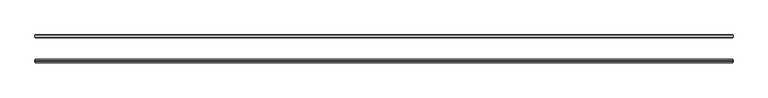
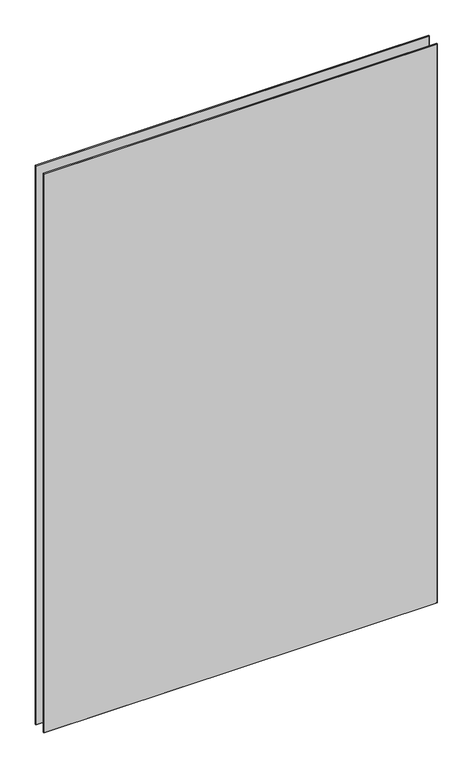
"""IFC4 building model written with IfcOpenShell, lengths in millimetres: plate geometry, 3-AMG-2-Панель двойной витраж 8, 10 : Смещение 32 Толщина 8mm."""

from ifc_helpers import new_model, si_unit, origin, place, context, project, spatial, faceted_brep, source, transform, mapped, element, save


def plate_8bf4778b(model_context):
    return source(origin(), model_context, "Body", "Brep", [
        faceted_brep([(912.0979348, -34.4961653, 2722.8), (912.0979348, -29.5038347, 2722.8), (-907.0979348, -29.5038347, 2722.8), (-907.0979348, -34.4961653, 2722.8), (912.0979348, -29.5038347, -7.0), (912.0979348, -34.4961653, -7.0), (-907.0979348, -34.4961653, -7.0), (-907.0979348, -29.5038347, -7.0), (-905.5941001, -28.0, 2721.2961653), (910.5941001, -28.0, 2721.2961653), (910.5941001, -28.0, -5.5039422), (-905.5941001, -28.0, -5.5039422), (910.5941001, -36.0, 2721.2961653), (-905.5941001, -36.0, 2721.2961653), (-905.5941001, -36.0, -5.4961653), (910.5941001, -36.0, -5.4961653)], [[[0, 1, 2, 3]], [[4, 5, 6, 7]], [[8, 9, 10, 11]], [[3, 2, 7, 6]], [[12, 13, 14, 15]], [[1, 0, 5, 4]], [[1, 4, 10, 9]], [[5, 0, 12, 15]], [[0, 3, 13, 12]], [[2, 1, 9, 8]], [[7, 2, 8, 11]], [[3, 6, 14, 13]], [[6, 5, 15, 14]], [[4, 7, 11, 10]]]),
        faceted_brep([(912.0979348, 29.5038347, 2722.8), (912.0979348, 34.4961653, 2722.8), (-907.0979348, 34.4961653, 2722.8), (-907.0979348, 29.5038347, 2722.8), (912.0979348, 34.4961653, -7.0), (912.0979348, 29.5038347, -7.0), (-907.0979348, 29.5038347, -7.0), (-907.0979348, 34.4961653, -7.0), (-905.5941001, 36.0, 2721.2961653), (910.5941001, 36.0, 2721.2961653), (910.5941001, 36.0, -5.5039422), (-905.5941001, 36.0, -5.5039422), (910.5941001, 28.0, 2721.2961653), (-905.5941001, 28.0, 2721.2961653), (-905.5941001, 28.0, -5.4961653), (910.5941001, 28.0, -5.4961653)], [[[0, 1, 2, 3]], [[4, 5, 6, 7]], [[8, 9, 10, 11]], [[3, 2, 7, 6]], [[12, 13, 14, 15]], [[1, 0, 5, 4]], [[1, 4, 10, 9]], [[5, 0, 12, 15]], [[7, 2, 8, 11]], [[3, 6, 14, 13]], [[0, 3, 13, 12]], [[2, 1, 9, 8]], [[6, 5, 15, 14]], [[4, 7, 11, 10]]]),
    ])


if __name__ == "__main__":
    model = new_model("IFC4")
    model_context = context("Model", 3, world=origin())
    ifc_project = project(units=[si_unit("LENGTHUNIT", "METRE", prefix="MILLI")], contexts=[model_context])
    site = spatial("IfcSite", under=ifc_project)
    building = spatial("IfcBuilding", under=site)
    placement = place(None, origin())
    plate_shape = plate_8bf4778b(model_context)
    element("IfcPlate", 1, ObjectType="3-AMG-2-Панель двойной витраж 8, 10 : Смещение 32 Толщина 8mm", at=placement, inside=building, context=model_context, shape_type="MappedRepresentation", body=[
        mapped(plate_shape, transform((0.0, 0.0, 0.0), x_axis=(1.0, 0.0, 0.0), y_axis=(0.0, 1.0, 0.0), z_axis=(0.0, 0.0, 1.0))),
    ])
    save(model, "model.ifc")
